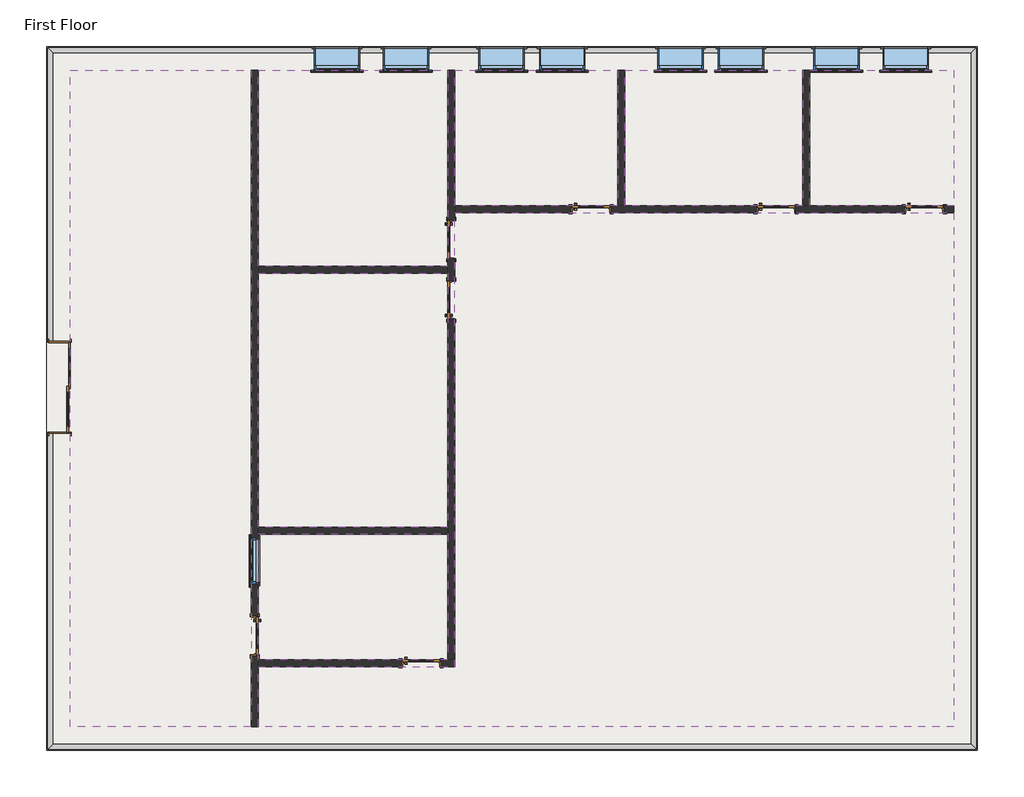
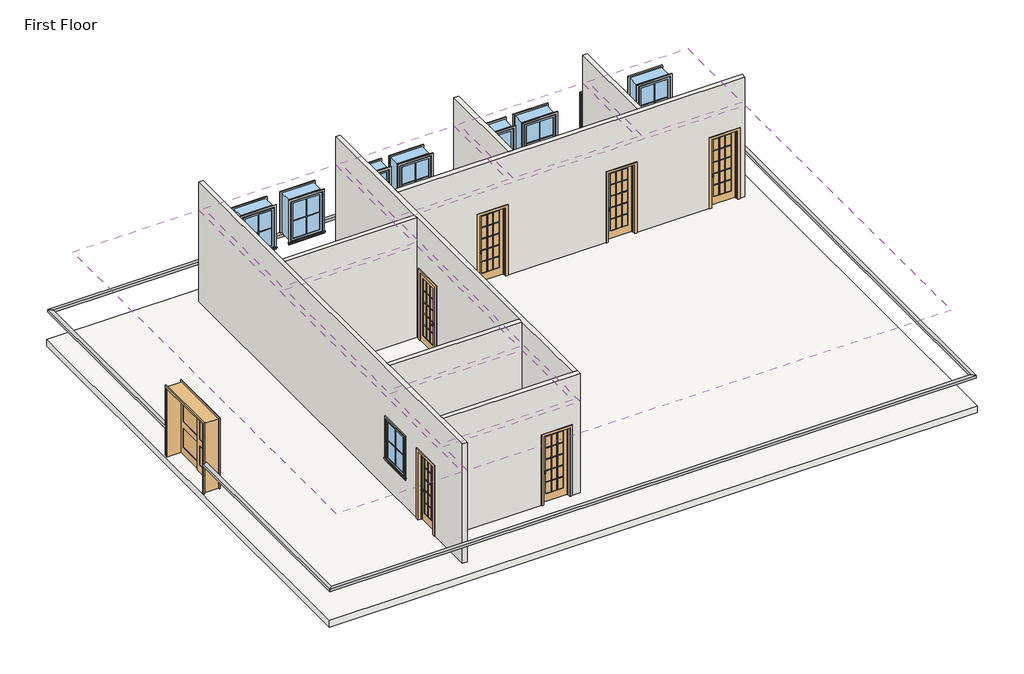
# One storey: 31 proxies, 9 windows, 8 coverings, 8 doors, 8 walls, 1 slab.
"""IFC4 building model written with IfcOpenShell, lengths in millimetres."""

from ifc_helpers import new_model, si_unit, frame, origin, place, context, project, spatial, polyline, outline, extrude, faceted_brep, transform, mapped, element, save
from components import muntin_pattern_2x2_muntin_pattern_2x2_49331bd8, muntin_pattern_2x2_muntin_pattern_2x2_a8e7a107, trim_window_exterior_flat_with_sill_cdc255b3, trim_window_exterior_flat_with_sill_0ab60cae, trim_window_interior_flat_picture_frame_ab41cb78, trim_window_interior_flat_picture_frame_2efe6088, m_door_interior_double_sliding_2_panel_wood_1800_x_2100mm_b8cd72e9, m_door_interior_single_full_glass_wood_750_x_2100mm_ded28596, m_door_interior_single_full_glass_wood_750_x_2100mm_01f99739, window_awning_single_915_x_1220_b06b9331, window_awning_single_915_x_1220_597a1cb3, window_awning_single_915_x_1220_ba5cffbd

model = new_model("IFC4")

# Units and contexts
model_context = context("Model", 3, world=origin())
ifc_project = project(units=[si_unit("LENGTHUNIT", "METRE", prefix="MILLI")], contexts=[model_context])

# Site, building, storey
site = spatial("IfcSite", under=ifc_project)
building = spatial("IfcBuilding", under=site)
storey = spatial("IfcBuildingStorey", under=building, Name="First Floor", Elevation=3600.0)

# Proxies
placement = place(None, origin())
element("IfcBuildingElementProxy", 1, Name="Reveals", at=placement, inside=storey, context=model_context, shape_type="SweptSolid", body=[
    extrude(outline(polyline([(-17378.8100037, 5434.2363466), (-17481.3100037, 5536.7363466), (1223.6899963, 5536.7363466), (1121.1899963, 5434.2363466), (-17378.8100037, 5434.2363466)])), frame((0.0, 0.0, 4449.0), z_axis=(0.0, 0.0, 1.0), x_axis=(1.0, 0.0, 0.0)), (0.0, 0.0, 1.0), 75.0),
])
element("IfcBuildingElementProxy", 2, Name="Reveals", at=placement, inside=storey, context=model_context, shape_type="SweptSolid", body=[
    extrude(outline(polyline([(-17378.8100037, -381.0811162), (-17481.3100037, -381.0811162), (-17481.3100037, 5536.7363466), (-17378.8100037, 5434.2363466), (-17378.8100037, -381.0811162)])), frame((0.0, 0.0, 4449.0), z_axis=(0.0, 0.0, 1.0), x_axis=(1.0, 0.0, 0.0)), (0.0, 0.0, 1.0), 75.0),
    extrude(outline(polyline([(-17378.8100037, -8493.7636534), (-17481.3100037, -8596.2636534), (-17481.3100037, -2231.0811162), (-17378.8100037, -2231.0811162), (-17378.8100037, -8493.7636534)])), frame((0.0, 0.0, 4449.0), z_axis=(0.0, 0.0, 1.0), x_axis=(1.0, 0.0, 0.0)), (0.0, 0.0, 1.0), 75.0),
])
element("IfcBuildingElementProxy", 3, Name="Reveals", at=placement, inside=storey, context=model_context, shape_type="SweptSolid", body=[
    extrude(outline(polyline([(1121.1899963, -8493.7636534), (1223.6899963, -8596.2636534), (-17481.3100037, -8596.2636534), (-17378.8100037, -8493.7636534), (1121.1899963, -8493.7636534)])), frame((0.0, 0.0, 4449.0), z_axis=(0.0, 0.0, 1.0), x_axis=(1.0, 0.0, 0.0)), (0.0, 0.0, 1.0), 75.0),
])
element("IfcBuildingElementProxy", 4, Name="Reveals", at=placement, inside=storey, context=model_context, shape_type="SweptSolid", body=[
    extrude(outline(polyline([(1121.1899963, 5434.2363466), (1223.6899963, 5536.7363466), (1223.6899963, -8596.2636534), (1121.1899963, -8493.7636534), (1121.1899963, 5434.2363466)])), frame((0.0, 0.0, 4449.0), z_axis=(0.0, 0.0, 1.0), x_axis=(1.0, 0.0, 0.0)), (0.0, 0.0, 1.0), 75.0),
])
muntin_pattern_2x2_muntin_pattern_2x2_shape = muntin_pattern_2x2_muntin_pattern_2x2_49331bd8(model_context)
element("IfcBuildingElementProxy", 5, Name="Muntin Pattern_2x2 : Muntin Pattern_2x2", ObjectType="Muntin Pattern_2x2 : Muntin Pattern_2x2", at=placement, inside=storey, context=model_context, shape_type="MappedRepresentation", body=[
    mapped(muntin_pattern_2x2_muntin_pattern_2x2_shape, transform((-13370.5350037, -4799.4136534, 4584.25), x_axis=(0.0, 1.0, 0.0), y_axis=(-1.0, 0.0, 0.0), z_axis=(0.0, 0.0, 1.0))),
])
element("IfcBuildingElementProxy", 6, Name="Muntin Pattern_2x2 : Muntin Pattern_2x2", ObjectType="Muntin Pattern_2x2 : Muntin Pattern_2x2", at=placement, inside=storey, context=model_context, shape_type="MappedRepresentation", body=[
    mapped(muntin_pattern_2x2_muntin_pattern_2x2_shape, transform((-1590.3100037, 5089.7613466, 4584.25), x_axis=(-1.0, 0.0, 0.0), y_axis=(0.0, -1.0, 0.0), z_axis=(0.0, 0.0, 1.0))),
])
element("IfcBuildingElementProxy", 7, Name="Muntin Pattern_2x2 : Muntin Pattern_2x2", ObjectType="Muntin Pattern_2x2 : Muntin Pattern_2x2", at=placement, inside=storey, context=model_context, shape_type="MappedRepresentation", body=[
    mapped(muntin_pattern_2x2_muntin_pattern_2x2_shape, transform((-198.934993, 5089.7613466, 4584.25), x_axis=(-1.0, 0.0, 0.0), y_axis=(0.0, -1.0, 0.0), z_axis=(0.0, 0.0, 1.0))),
])
element("IfcBuildingElementProxy", 8, Name="Muntin Pattern_2x2 : Muntin Pattern_2x2", ObjectType="Muntin Pattern_2x2 : Muntin Pattern_2x2", at=placement, inside=storey, context=model_context, shape_type="MappedRepresentation", body=[
    mapped(muntin_pattern_2x2_muntin_pattern_2x2_shape, transform((-3517.3100037, 5089.7613466, 4584.25), x_axis=(-1.0, 0.0, 0.0), y_axis=(0.0, -1.0, 0.0), z_axis=(0.0, 0.0, 1.0))),
])
element("IfcBuildingElementProxy", 9, Name="Muntin Pattern_2x2 : Muntin Pattern_2x2", ObjectType="Muntin Pattern_2x2 : Muntin Pattern_2x2", at=placement, inside=storey, context=model_context, shape_type="MappedRepresentation", body=[
    mapped(muntin_pattern_2x2_muntin_pattern_2x2_shape, transform((-4736.5100037, 5089.7613466, 4584.25), x_axis=(-1.0, 0.0, 0.0), y_axis=(0.0, -1.0, 0.0), z_axis=(0.0, 0.0, 1.0))),
])
muntin_pattern_2x2_muntin_pattern_2x2_2_shape = muntin_pattern_2x2_muntin_pattern_2x2_a8e7a107(model_context)
element("IfcBuildingElementProxy", 10, Name="Muntin Pattern_2x2 : Muntin Pattern_2x2", ObjectType="Muntin Pattern_2x2 : Muntin Pattern_2x2", at=placement, inside=storey, context=model_context, shape_type="MappedRepresentation", body=[
    mapped(muntin_pattern_2x2_muntin_pattern_2x2_2_shape, transform((-10263.2100037, 5089.7613466, 4584.25), x_axis=(1.0, 0.0, 0.0), y_axis=(0.0, 1.0, 0.0), z_axis=(0.0, 0.0, 1.0))),
])
element("IfcBuildingElementProxy", 11, Name="Muntin Pattern_2x2 : Muntin Pattern_2x2", ObjectType="Muntin Pattern_2x2 : Muntin Pattern_2x2", at=placement, inside=storey, context=model_context, shape_type="MappedRepresentation", body=[
    mapped(muntin_pattern_2x2_muntin_pattern_2x2_2_shape, transform((-11654.5850143, 5089.7613466, 4584.25), x_axis=(1.0, 0.0, 0.0), y_axis=(0.0, 1.0, 0.0), z_axis=(0.0, 0.0, 1.0))),
])
element("IfcBuildingElementProxy", 12, Name="Muntin Pattern_2x2 : Muntin Pattern_2x2", ObjectType="Muntin Pattern_2x2 : Muntin Pattern_2x2", at=placement, inside=storey, context=model_context, shape_type="MappedRepresentation", body=[
    mapped(muntin_pattern_2x2_muntin_pattern_2x2_2_shape, transform((-8336.2100037, 5089.7613466, 4584.25), x_axis=(1.0, 0.0, 0.0), y_axis=(0.0, 1.0, 0.0), z_axis=(0.0, 0.0, 1.0))),
])
element("IfcBuildingElementProxy", 13, Name="Muntin Pattern_2x2 : Muntin Pattern_2x2", ObjectType="Muntin Pattern_2x2 : Muntin Pattern_2x2", at=placement, inside=storey, context=model_context, shape_type="MappedRepresentation", body=[
    mapped(muntin_pattern_2x2_muntin_pattern_2x2_2_shape, transform((-7117.0100037, 5089.7613466, 4584.25), x_axis=(1.0, 0.0, 0.0), y_axis=(0.0, 1.0, 0.0), z_axis=(0.0, 0.0, 1.0))),
])
trim_window_exterior_flat_with_sill_shape = trim_window_exterior_flat_with_sill_cdc255b3(model_context)
element("IfcBuildingElementProxy", 14, Name="Trim-Window-Exterior-Flat : with Sill", ObjectType="Trim-Window-Exterior-Flat : with Sill", at=placement, inside=storey, context=model_context, shape_type="MappedRepresentation", body=[
    mapped(trim_window_exterior_flat_with_sill_shape, transform((-13380.0600037, -4799.4136534, 5734.4), x_axis=(0.0, -1.0, 0.0), y_axis=(0.0, 0.0, 1.0), z_axis=(-1.0, 0.0, 0.0))),
])
element("IfcBuildingElementProxy", 15, Name="Trim-Window-Exterior-Flat : with Sill", ObjectType="Trim-Window-Exterior-Flat : with Sill", at=placement, inside=storey, context=model_context, shape_type="MappedRepresentation", body=[
    mapped(trim_window_exterior_flat_with_sill_shape, transform((-1590.3100037, 5080.2363466, 5734.4), x_axis=(1.0, 0.0, 0.0), y_axis=(0.0, 0.0, 1.0), z_axis=(0.0, -1.0, 0.0))),
])
element("IfcBuildingElementProxy", 16, Name="Trim-Window-Exterior-Flat : with Sill", ObjectType="Trim-Window-Exterior-Flat : with Sill", at=placement, inside=storey, context=model_context, shape_type="MappedRepresentation", body=[
    mapped(trim_window_exterior_flat_with_sill_shape, transform((-198.934993, 5080.2363466, 5734.4), x_axis=(1.0, 0.0, 0.0), y_axis=(0.0, 0.0, 1.0), z_axis=(0.0, -1.0, 0.0))),
])
element("IfcBuildingElementProxy", 17, Name="Trim-Window-Exterior-Flat : with Sill", ObjectType="Trim-Window-Exterior-Flat : with Sill", at=placement, inside=storey, context=model_context, shape_type="MappedRepresentation", body=[
    mapped(trim_window_exterior_flat_with_sill_shape, transform((-3517.3100037, 5080.2363466, 5734.4), x_axis=(1.0, 0.0, 0.0), y_axis=(0.0, 0.0, 1.0), z_axis=(0.0, -1.0, 0.0))),
])
element("IfcBuildingElementProxy", 18, Name="Trim-Window-Exterior-Flat : with Sill", ObjectType="Trim-Window-Exterior-Flat : with Sill", at=placement, inside=storey, context=model_context, shape_type="MappedRepresentation", body=[
    mapped(trim_window_exterior_flat_with_sill_shape, transform((-4736.5100037, 5080.2363466, 5734.4), x_axis=(1.0, 0.0, 0.0), y_axis=(0.0, 0.0, 1.0), z_axis=(0.0, -1.0, 0.0))),
])
trim_window_exterior_flat_with_sill_2_shape = trim_window_exterior_flat_with_sill_0ab60cae(model_context)
element("IfcBuildingElementProxy", 19, Name="Trim-Window-Exterior-Flat : with Sill", ObjectType="Trim-Window-Exterior-Flat : with Sill", at=placement, inside=storey, context=model_context, shape_type="MappedRepresentation", body=[
    mapped(trim_window_exterior_flat_with_sill_2_shape, transform((-10263.2100037, 5080.2363466, 5734.4), x_axis=(-1.0, 0.0, 0.0), y_axis=(0.0, 0.0, -1.0), z_axis=(0.0, -1.0, 0.0))),
])
element("IfcBuildingElementProxy", 20, Name="Trim-Window-Exterior-Flat : with Sill", ObjectType="Trim-Window-Exterior-Flat : with Sill", at=placement, inside=storey, context=model_context, shape_type="MappedRepresentation", body=[
    mapped(trim_window_exterior_flat_with_sill_2_shape, transform((-11654.5850143, 5080.2363466, 5734.4), x_axis=(-1.0, 0.0, 0.0), y_axis=(0.0, 0.0, -1.0), z_axis=(0.0, -1.0, 0.0))),
])
element("IfcBuildingElementProxy", 21, Name="Trim-Window-Exterior-Flat : with Sill", ObjectType="Trim-Window-Exterior-Flat : with Sill", at=placement, inside=storey, context=model_context, shape_type="MappedRepresentation", body=[
    mapped(trim_window_exterior_flat_with_sill_2_shape, transform((-8336.2100037, 5080.2363466, 5734.4), x_axis=(-1.0, 0.0, 0.0), y_axis=(0.0, 0.0, -1.0), z_axis=(0.0, -1.0, 0.0))),
])
element("IfcBuildingElementProxy", 22, Name="Trim-Window-Exterior-Flat : with Sill", ObjectType="Trim-Window-Exterior-Flat : with Sill", at=placement, inside=storey, context=model_context, shape_type="MappedRepresentation", body=[
    mapped(trim_window_exterior_flat_with_sill_2_shape, transform((-7117.0100037, 5080.2363466, 5734.4), x_axis=(-1.0, 0.0, 0.0), y_axis=(0.0, 0.0, -1.0), z_axis=(0.0, -1.0, 0.0))),
])
trim_window_interior_flat_picture_frame_shape = trim_window_interior_flat_picture_frame_ab41cb78(model_context)
element("IfcBuildingElementProxy", 23, Name="Trim-Window-Interior-Flat : Picture Frame", ObjectType="Trim-Window-Interior-Flat : Picture Frame", at=placement, inside=storey, context=model_context, shape_type="MappedRepresentation", body=[
    mapped(trim_window_interior_flat_picture_frame_shape, transform((-13241.5600037, -4799.4136534, 5734.4), x_axis=(0.0, 1.0, 0.0), y_axis=(0.0, 0.0, 1.0), z_axis=(1.0, 0.0, 0.0))),
])
element("IfcBuildingElementProxy", 24, Name="Trim-Window-Interior-Flat : Picture Frame", ObjectType="Trim-Window-Interior-Flat : Picture Frame", at=placement, inside=storey, context=model_context, shape_type="MappedRepresentation", body=[
    mapped(trim_window_interior_flat_picture_frame_shape, transform((-1590.3100037, 5509.2363466, 5734.4), x_axis=(-1.0, 0.0, 0.0), y_axis=(0.0, 0.0, 1.0), z_axis=(0.0, 1.0, 0.0))),
])
element("IfcBuildingElementProxy", 25, Name="Trim-Window-Interior-Flat : Picture Frame", ObjectType="Trim-Window-Interior-Flat : Picture Frame", at=placement, inside=storey, context=model_context, shape_type="MappedRepresentation", body=[
    mapped(trim_window_interior_flat_picture_frame_shape, transform((-198.934993, 5509.2363466, 5734.4), x_axis=(-1.0, 0.0, 0.0), y_axis=(0.0, 0.0, 1.0), z_axis=(0.0, 1.0, 0.0))),
])
element("IfcBuildingElementProxy", 26, Name="Trim-Window-Interior-Flat : Picture Frame", ObjectType="Trim-Window-Interior-Flat : Picture Frame", at=placement, inside=storey, context=model_context, shape_type="MappedRepresentation", body=[
    mapped(trim_window_interior_flat_picture_frame_shape, transform((-3517.3100037, 5509.2363466, 5734.4), x_axis=(-1.0, 0.0, 0.0), y_axis=(0.0, 0.0, 1.0), z_axis=(0.0, 1.0, 0.0))),
])
element("IfcBuildingElementProxy", 27, Name="Trim-Window-Interior-Flat : Picture Frame", ObjectType="Trim-Window-Interior-Flat : Picture Frame", at=placement, inside=storey, context=model_context, shape_type="MappedRepresentation", body=[
    mapped(trim_window_interior_flat_picture_frame_shape, transform((-4736.5100037, 5509.2363466, 5734.4), x_axis=(-1.0, 0.0, 0.0), y_axis=(0.0, 0.0, 1.0), z_axis=(0.0, 1.0, 0.0))),
])
trim_window_interior_flat_picture_frame_2_shape = trim_window_interior_flat_picture_frame_2efe6088(model_context)
element("IfcBuildingElementProxy", 28, Name="Trim-Window-Interior-Flat : Picture Frame", ObjectType="Trim-Window-Interior-Flat : Picture Frame", at=placement, inside=storey, context=model_context, shape_type="MappedRepresentation", body=[
    mapped(trim_window_interior_flat_picture_frame_2_shape, transform((-10263.2100037, 5509.2363466, 5734.4), x_axis=(1.0, 0.0, 0.0), y_axis=(0.0, 0.0, -1.0), z_axis=(0.0, 1.0, 0.0))),
])
element("IfcBuildingElementProxy", 29, Name="Trim-Window-Interior-Flat : Picture Frame", ObjectType="Trim-Window-Interior-Flat : Picture Frame", at=placement, inside=storey, context=model_context, shape_type="MappedRepresentation", body=[
    mapped(trim_window_interior_flat_picture_frame_2_shape, transform((-11654.5850143, 5509.2363466, 5734.4), x_axis=(1.0, 0.0, 0.0), y_axis=(0.0, 0.0, -1.0), z_axis=(0.0, 1.0, 0.0))),
])
element("IfcBuildingElementProxy", 30, Name="Trim-Window-Interior-Flat : Picture Frame", ObjectType="Trim-Window-Interior-Flat : Picture Frame", at=placement, inside=storey, context=model_context, shape_type="MappedRepresentation", body=[
    mapped(trim_window_interior_flat_picture_frame_2_shape, transform((-8336.2100037, 5509.2363466, 5734.4), x_axis=(1.0, 0.0, 0.0), y_axis=(0.0, 0.0, -1.0), z_axis=(0.0, 1.0, 0.0))),
])
element("IfcBuildingElementProxy", 31, Name="Trim-Window-Interior-Flat : Picture Frame", ObjectType="Trim-Window-Interior-Flat : Picture Frame", at=placement, inside=storey, context=model_context, shape_type="MappedRepresentation", body=[
    mapped(trim_window_interior_flat_picture_frame_2_shape, transform((-7117.0100037, 5509.2363466, 5734.4), x_axis=(1.0, 0.0, 0.0), y_axis=(0.0, 0.0, -1.0), z_axis=(0.0, 1.0, 0.0))),
])

# Coverings
element("IfcCovering", 32, ObjectType="Plain", at=placement, inside=storey, context=model_context, shape_type="SweptSolid", body=[
    extrude(outline(polyline([(-17024.8100037, 5080.2363466), (-13380.0600037, 5080.2363466), (-13380.0600037, -8139.7636534), (-17024.8100037, -8139.7636534), (-17024.8100037, 5080.2363466)])), frame((0.0, 0.0, 6400.0), z_axis=(0.0, 0.0, 1.0), x_axis=(1.0, 0.0, 0.0)), (0.0, 0.0, 1.0), 57.0),
])
element("IfcCovering", 33, ObjectType="Plain", at=placement, inside=storey, context=model_context, shape_type="SweptSolid", body=[
    extrude(outline(polyline([(-13241.5600037, 1130.2863466), (-13241.5600037, 5080.2363466), (-9418.0600037, 5080.2363466), (-9418.0600037, 1130.2863466), (-13241.5600037, 1130.2863466)])), frame((0.0, 0.0, 6400.0), z_axis=(0.0, 0.0, 1.0), x_axis=(1.0, 0.0, 0.0)), (0.0, 0.0, 1.0), 57.0),
])
element("IfcCovering", 34, ObjectType="Plain", at=placement, inside=storey, context=model_context, shape_type="SweptSolid", body=[
    extrude(outline(polyline([(-9418.0600037, -4120.5636534), (-13241.5600037, -4120.5636534), (-13241.5600037, 991.7863466), (-9418.0600037, 991.7863466), (-9418.0600037, -4120.5636534)])), frame((0.0, 0.0, 6400.0), z_axis=(0.0, 0.0, 1.0), x_axis=(1.0, 0.0, 0.0)), (0.0, 0.0, 1.0), 57.0),
])
element("IfcCovering", 35, ObjectType="Plain", at=placement, inside=storey, context=model_context, shape_type="SweptSolid", body=[
    extrude(outline(polyline([(-9418.0600037, -6794.5136534), (-13241.5600037, -6794.5136534), (-13241.5600037, -4259.0636534), (-9418.0600037, -4259.0636534), (-9418.0600037, -6794.5136534)])), frame((0.0, 0.0, 6400.0), z_axis=(0.0, 0.0, 1.0), x_axis=(1.0, 0.0, 0.0)), (0.0, 0.0, 1.0), 57.0),
])
element("IfcCovering", 36, ObjectType="Plain", at=placement, inside=storey, context=model_context, shape_type="SweptSolid", body=[
    extrude(outline(polyline([(767.1899963, -8139.7636534), (-13241.5600037, -8139.7636534), (-13241.5600037, -6933.0136534), (-9279.5600037, -6933.0136534), (-9279.5600037, 2210.9863466), (767.1899963, 2210.9863466), (767.1899963, -8139.7636534)])), frame((0.0, 0.0, 6400.0), z_axis=(0.0, 0.0, 1.0), x_axis=(1.0, 0.0, 0.0)), (0.0, 0.0, 1.0), 57.0),
])
element("IfcCovering", 37, ObjectType="Plain", at=placement, inside=storey, context=model_context, shape_type="SweptSolid", body=[
    extrude(outline(polyline([(-9279.5600037, 5080.2363466), (-5996.0100037, 5080.2363466), (-5996.0100037, 2349.4863466), (-9279.5600037, 2349.4863466), (-9279.5600037, 5080.2363466)])), frame((0.0, 0.0, 6400.0), z_axis=(0.0, 0.0, 1.0), x_axis=(1.0, 0.0, 0.0)), (0.0, 0.0, 1.0), 57.0),
])
element("IfcCovering", 38, ObjectType="Plain", at=placement, inside=storey, context=model_context, shape_type="SweptSolid", body=[
    extrude(outline(polyline([(-5857.5100037, 2349.4863466), (-5857.5100037, 5080.2363466), (-2269.1600037, 5080.2363466), (-2269.1600037, 2349.4863466), (-5857.5100037, 2349.4863466)])), frame((0.0, 0.0, 6400.0), z_axis=(0.0, 0.0, 1.0), x_axis=(1.0, 0.0, 0.0)), (0.0, 0.0, 1.0), 57.0),
])
element("IfcCovering", 39, ObjectType="Plain", at=placement, inside=storey, context=model_context, shape_type="SweptSolid", body=[
    extrude(outline(polyline([(-2130.6600037, 2349.4863466), (-2130.6600037, 5080.2363466), (767.1899963, 5080.2363466), (767.1899963, 2349.4863466), (-2130.6600037, 2349.4863466)])), frame((0.0, 0.0, 6400.0), z_axis=(0.0, 0.0, 1.0), x_axis=(1.0, 0.0, 0.0)), (0.0, 0.0, 1.0), 57.0),
])

# Doors
m_door_interior_double_sliding_2_panel_wood_1800_x_2100mm_shape = m_door_interior_double_sliding_2_panel_wood_1800_x_2100mm_b8cd72e9(model_context)
element("IfcDoor", 40, ObjectType="M_Door-Interior-Double-Sliding-2_Panel-Wood : 1800 x 2100mm", at=placement, inside=storey, context=model_context, shape_type="MappedRepresentation", body=[
    mapped(m_door_interior_double_sliding_2_panel_wood_1800_x_2100mm_shape, transform((-17236.1350037, -1306.0811162, 3600.0), x_axis=(0.0, -1.0, 0.0), y_axis=(1.0, 0.0, 0.0), z_axis=(0.0, 0.0, 1.0))),
])
m_door_interior_single_full_glass_wood_750_x_2100mm_shape = m_door_interior_single_full_glass_wood_750_x_2100mm_ded28596(model_context)
element("IfcDoor", 41, ObjectType="M_Door-Interior-Single-Full Glass-Wood : 750 x 2100mm", at=placement, inside=storey, context=model_context, shape_type="MappedRepresentation", body=[
    mapped(m_door_interior_single_full_glass_wood_750_x_2100mm_shape, transform((-13307.6350037, -6311.9136534, 3600.0), x_axis=(0.0, -1.0, 0.0), y_axis=(1.0, 0.0, 0.0), z_axis=(0.0, 0.0, 1.0))),
])
element("IfcDoor", 42, ObjectType="M_Door-Interior-Single-Full Glass-Wood : 750 x 2100mm", at=placement, inside=storey, context=model_context, shape_type="MappedRepresentation", body=[
    mapped(m_door_interior_single_full_glass_wood_750_x_2100mm_shape, transform((-9958.4100037, -6860.5886534, 3600.0), x_axis=(1.0, 0.0, 0.0), y_axis=(0.0, 1.0, 0.0), z_axis=(0.0, 0.0, 1.0))),
])
element("IfcDoor", 43, ObjectType="M_Door-Interior-Single-Full Glass-Wood : 750 x 2100mm", at=placement, inside=storey, context=model_context, shape_type="MappedRepresentation", body=[
    mapped(m_door_interior_single_full_glass_wood_750_x_2100mm_shape, transform((-9351.9850037, 451.4363466, 3600.0), x_axis=(0.0, 1.0, 0.0), y_axis=(-1.0, 0.0, 0.0), z_axis=(0.0, 0.0, 1.0))),
])
element("IfcDoor", 44, ObjectType="M_Door-Interior-Single-Full Glass-Wood : 750 x 2100mm", at=placement, inside=storey, context=model_context, shape_type="MappedRepresentation", body=[
    mapped(m_door_interior_single_full_glass_wood_750_x_2100mm_shape, transform((-6536.3600037, 2283.4113466, 3600.0), x_axis=(1.0, 0.0, 0.0), y_axis=(0.0, 1.0, 0.0), z_axis=(0.0, 0.0, 1.0))),
])
element("IfcDoor", 45, ObjectType="M_Door-Interior-Single-Full Glass-Wood : 750 x 2100mm", at=placement, inside=storey, context=model_context, shape_type="MappedRepresentation", body=[
    mapped(m_door_interior_single_full_glass_wood_750_x_2100mm_shape, transform((-2809.5100037, 2283.4113466, 3600.0), x_axis=(1.0, 0.0, 0.0), y_axis=(0.0, 1.0, 0.0), z_axis=(0.0, 0.0, 1.0))),
])
element("IfcDoor", 46, ObjectType="M_Door-Interior-Single-Full Glass-Wood : 750 x 2100mm", at=placement, inside=storey, context=model_context, shape_type="MappedRepresentation", body=[
    mapped(m_door_interior_single_full_glass_wood_750_x_2100mm_shape, transform((175.5899963, 2283.4113466, 3600.0), x_axis=(1.0, 0.0, 0.0), y_axis=(0.0, 1.0, 0.0), z_axis=(0.0, 0.0, 1.0))),
])
m_door_interior_single_full_glass_wood_750_x_2100mm_2_shape = m_door_interior_single_full_glass_wood_750_x_2100mm_01f99739(model_context)
element("IfcDoor", 47, ObjectType="M_Door-Interior-Single-Full Glass-Wood : 750 x 2100mm", at=placement, inside=storey, context=model_context, shape_type="MappedRepresentation", body=[
    mapped(m_door_interior_single_full_glass_wood_750_x_2100mm_2_shape, transform((-9351.9850037, 1670.6363466, 3600.0), x_axis=(0.0, -1.0, 0.0), y_axis=(1.0, 0.0, 0.0), z_axis=(0.0, 0.0, 1.0))),
])

# Slab
element("IfcSlab", 48, ObjectType="160mm Concrete With 50mm Metal Deck", at=placement, inside=storey, context=model_context, shape_type="SweptSolid", body=[
    extrude(outline(polyline([(1245.1899963, 5558.2363466), (1245.1899963, -8617.7636534), (-17502.8100037, -8617.7636534), (-17502.8100037, 5558.2363466), (1245.1899963, 5558.2363466)])), frame((0.0, 0.0, 3390.0), z_axis=(0.0, 0.0, 1.0), x_axis=(1.0, 0.0, 0.0)), (0.0, 0.0, 1.0), 210.0),
])

# Walls
element("IfcWall", 49, ObjectType="Interior - 138mm Partition (1-hr)", at=placement, inside=storey, context=model_context, shape_type="Brep", body=[
    faceted_brep([(-13380.0600037, -8139.7636534, 7258.0), (-13380.0600037, 5080.2363466, 7258.0), (-13380.0600037, 5080.2363466, 3600.0), (-13380.0600037, -5911.9136534, 3600.0), (-13380.0600037, -5911.9136534, 5725.0), (-13380.0600037, -6711.9136534, 5725.0), (-13380.0600037, -6711.9136534, 3600.0), (-13380.0600037, -8139.7636534, 3600.0), (-13380.0600037, -4341.9136534, 5734.4), (-13380.0600037, -5256.9136534, 5734.4), (-13380.0600037, -5256.9136534, 4514.4), (-13380.0600037, -4341.9136534, 4514.4), (-13241.5600037, 5080.2363466, 7258.0), (-13241.5600037, 1130.2863466, 7258.0), (-13241.5600037, 991.7863466, 7258.0), (-13241.5600037, -4120.5636534, 7258.0), (-13241.5600037, -4259.0636534, 7258.0), (-13241.5600037, -6794.5136534, 7258.0), (-13241.5600037, -6933.0136534, 7258.0), (-13241.5600037, -8139.7636534, 7258.0), (-13241.5600037, -8139.7636534, 3600.0), (-13241.5600037, -6933.0136534, 3600.0), (-13241.5600037, -6794.5136534, 3600.0), (-13241.5600037, -6711.9136534, 3600.0), (-13241.5600037, -6711.9136534, 5725.0), (-13241.5600037, -5911.9136534, 5725.0), (-13241.5600037, -5911.9136534, 3600.0), (-13241.5600037, -4259.0636534, 3600.0), (-13241.5600037, -4120.5636534, 3600.0), (-13241.5600037, 991.7863466, 3600.0), (-13241.5600037, 1130.2863466, 3600.0), (-13241.5600037, 5080.2363466, 3600.0), (-13241.5600037, -4341.9136534, 5734.4), (-13241.5600037, -4341.9136534, 4514.4), (-13241.5600037, -5256.9136534, 4514.4), (-13241.5600037, -5256.9136534, 5734.4)], [[[0, 1, 2, 3, 4, 5, 6, 7], [8, 9, 10, 11]], [[12, 13, 14, 15, 16, 17, 18, 19, 20, 21, 22, 23, 24, 25, 26, 27, 28, 29, 30, 31], [32, 33, 34, 35]], [[2, 31, 30, 29, 28, 27, 26, 3]], [[20, 7, 6, 23, 22, 21]], [[1, 0, 19, 18, 17, 16, 15, 14, 13, 12]], [[5, 24, 23, 6]], [[24, 5, 4, 25]], [[25, 4, 3, 26]], [[33, 32, 8, 11]], [[34, 33, 11, 10]], [[35, 34, 10, 9]], [[32, 35, 9, 8]], [[2, 1, 12, 31]], [[0, 7, 20, 19]]]),
])
element("IfcWall", 50, ObjectType="Interior - 138mm Partition (1-hr)", at=placement, inside=storey, context=model_context, shape_type="Brep", body=[
    faceted_brep([(-9279.5600037, -6933.0136534, 7258.0), (-13241.5600037, -6933.0136534, 7258.0), (-13241.5600037, -6933.0136534, 3600.0), (-10358.4100037, -6933.0136534, 3600.0), (-10358.4100037, -6933.0136534, 5725.0), (-9558.4100037, -6933.0136534, 5725.0), (-9558.4100037, -6933.0136534, 3600.0), (-9279.5600037, -6933.0136534, 3600.0), (-13241.5600037, -6794.5136534, 7258.0), (-9418.0600037, -6794.5136534, 7258.0), (-9279.5600037, -6794.5136534, 7258.0), (-9279.5600037, -6794.5136534, 3600.0), (-9418.0600037, -6794.5136534, 3600.0), (-9558.4100037, -6794.5136534, 3600.0), (-9558.4100037, -6794.5136534, 5725.0), (-10358.4100037, -6794.5136534, 5725.0), (-10358.4100037, -6794.5136534, 3600.0), (-13241.5600037, -6794.5136534, 3600.0)], [[[0, 1, 2, 3, 4, 5, 6, 7]], [[8, 9, 10, 11, 12, 13, 14, 15, 16, 17]], [[2, 17, 16, 3]], [[11, 7, 6, 13, 12]], [[1, 0, 10, 9, 8]], [[2, 1, 8, 17]], [[0, 7, 11, 10]], [[5, 14, 13, 6]], [[14, 5, 4, 15]], [[15, 4, 3, 16]]]),
])
element("IfcWall", 51, ObjectType="Interior - 138mm Partition (1-hr)", at=placement, inside=storey, context=model_context, shape_type="Brep", body=[
    faceted_brep([(-9279.5600037, 5080.2363466, 7258.0), (-9279.5600037, 2349.4863466, 7258.0), (-9279.5600037, 2210.9863466, 7258.0), (-9279.5600037, -6794.5136534, 7258.0), (-9279.5600037, -6794.5136534, 3600.0), (-9279.5600037, 51.4363466, 3600.0), (-9279.5600037, 51.4363466, 5725.0), (-9279.5600037, 851.4363466, 5725.0), (-9279.5600037, 851.4363466, 3600.0), (-9279.5600037, 1270.6363466, 3600.0), (-9279.5600037, 1270.6363466, 5725.0), (-9279.5600037, 2070.6363466, 5725.0), (-9279.5600037, 2070.6363466, 3600.0), (-9279.5600037, 2210.9863466, 3600.0), (-9279.5600037, 2349.4863466, 3600.0), (-9279.5600037, 5080.2363466, 3600.0), (-9418.0600037, -6794.5136534, 7258.0), (-9418.0600037, -4259.0636534, 7258.0), (-9418.0600037, -4120.5636534, 7258.0), (-9418.0600037, 991.7863466, 7258.0), (-9418.0600037, 1130.2863466, 7258.0), (-9418.0600037, 5080.2363466, 7258.0), (-9418.0600037, 5080.2363466, 3600.0), (-9418.0600037, 2070.6363466, 3600.0), (-9418.0600037, 2070.6363466, 5725.0), (-9418.0600037, 1270.6363466, 5725.0), (-9418.0600037, 1270.6363466, 3600.0), (-9418.0600037, 1130.2863466, 3600.0), (-9418.0600037, 991.7863466, 3600.0), (-9418.0600037, 851.4363466, 3600.0), (-9418.0600037, 851.4363466, 5725.0), (-9418.0600037, 51.4363466, 5725.0), (-9418.0600037, 51.4363466, 3600.0), (-9418.0600037, -4120.5636534, 3600.0), (-9418.0600037, -4259.0636534, 3600.0), (-9418.0600037, -6794.5136534, 3600.0)], [[[0, 1, 2, 3, 4, 5, 6, 7, 8, 9, 10, 11, 12, 13, 14, 15]], [[16, 17, 18, 19, 20, 21, 22, 23, 24, 25, 26, 27, 28, 29, 30, 31, 32, 33, 34, 35]], [[4, 35, 34, 33, 32, 5]], [[8, 29, 28, 27, 26, 9]], [[22, 15, 14, 13, 12, 23]], [[3, 2, 1, 0, 21, 20, 19, 18, 17, 16]], [[4, 3, 16, 35]], [[7, 30, 29, 8]], [[30, 7, 6, 31]], [[31, 6, 5, 32]], [[25, 10, 9, 26]], [[10, 25, 24, 11]], [[11, 24, 23, 12]], [[0, 15, 22, 21]]]),
])
element("IfcWall", 52, ObjectType="Interior - 138mm Partition (1-hr)", at=placement, inside=storey, context=model_context, shape_type="Brep", body=[
    faceted_brep([(767.1899963, 2210.9863466, 7258.0), (-9279.5600037, 2210.9863466, 7258.0), (-9279.5600037, 2210.9863466, 3600.0), (-6936.3600037, 2210.9863466, 3600.0), (-6936.3600037, 2210.9863466, 5725.0), (-6136.3600037, 2210.9863466, 5725.0), (-6136.3600037, 2210.9863466, 3600.0), (-3209.5100037, 2210.9863466, 3600.0), (-3209.5100037, 2210.9863466, 5725.0), (-2409.5100037, 2210.9863466, 5725.0), (-2409.5100037, 2210.9863466, 3600.0), (-224.4100037, 2210.9863466, 3600.0), (-224.4100037, 2210.9863466, 5725.0), (575.5899963, 2210.9863466, 5725.0), (575.5899963, 2210.9863466, 3600.0), (767.1899963, 2210.9863466, 3600.0), (-9279.5600037, 2349.4863466, 7258.0), (-5996.0100037, 2349.4863466, 7258.0), (-5857.5100037, 2349.4863466, 7258.0), (-2269.1600037, 2349.4863466, 7258.0), (-2130.6600037, 2349.4863466, 7258.0), (767.1899963, 2349.4863466, 7258.0), (767.1899963, 2349.4863466, 3600.0), (575.5899963, 2349.4863466, 3600.0), (575.5899963, 2349.4863466, 5725.0), (-224.4100037, 2349.4863466, 5725.0), (-224.4100037, 2349.4863466, 3600.0), (-2130.6600037, 2349.4863466, 3600.0), (-2269.1600037, 2349.4863466, 3600.0), (-2409.5100037, 2349.4863466, 3600.0), (-2409.5100037, 2349.4863466, 5725.0), (-3209.5100037, 2349.4863466, 5725.0), (-3209.5100037, 2349.4863466, 3600.0), (-5857.5100037, 2349.4863466, 3600.0), (-5996.0100037, 2349.4863466, 3600.0), (-6136.3600037, 2349.4863466, 3600.0), (-6136.3600037, 2349.4863466, 5725.0), (-6936.3600037, 2349.4863466, 5725.0), (-6936.3600037, 2349.4863466, 3600.0), (-9279.5600037, 2349.4863466, 3600.0)], [[[0, 1, 2, 3, 4, 5, 6, 7, 8, 9, 10, 11, 12, 13, 14, 15]], [[16, 17, 18, 19, 20, 21, 22, 23, 24, 25, 26, 27, 28, 29, 30, 31, 32, 33, 34, 35, 36, 37, 38, 39]], [[2, 39, 38, 3]], [[6, 35, 34, 33, 32, 7]], [[10, 29, 28, 27, 26, 11]], [[22, 15, 14, 23]], [[1, 0, 21, 20, 19, 18, 17, 16]], [[2, 1, 16, 39]], [[5, 36, 35, 6]], [[36, 5, 4, 37]], [[37, 4, 3, 38]], [[9, 30, 29, 10]], [[30, 9, 8, 31]], [[31, 8, 7, 32]], [[13, 24, 23, 14]], [[24, 13, 12, 25]], [[25, 12, 11, 26]], [[0, 15, 22, 21]]]),
])
element("IfcWall", 53, ObjectType="Interior - 138mm Partition (1-hr)", at=placement, inside=storey, context=model_context, shape_type="SweptSolid", body=[
    extrude(outline(polyline([(-9418.0600037, 991.7863466), (-13241.5600037, 991.7863466), (-13241.5600037, 1130.2863466), (-9418.0600037, 1130.2863466), (-9418.0600037, 991.7863466)])), frame((0.0, 0.0, 3600.0), z_axis=(0.0, 0.0, 1.0), x_axis=(1.0, 0.0, 0.0)), (0.0, 0.0, 1.0), 3658.0),
])
element("IfcWall", 54, ObjectType="Interior - 138mm Partition (1-hr)", at=placement, inside=storey, context=model_context, shape_type="SweptSolid", body=[
    extrude(outline(polyline([(-9418.0600037, -4259.0636534), (-13241.5600037, -4259.0636534), (-13241.5600037, -4120.5636534), (-9418.0600037, -4120.5636534), (-9418.0600037, -4259.0636534)])), frame((0.0, 0.0, 3600.0), z_axis=(0.0, 0.0, 1.0), x_axis=(1.0, 0.0, 0.0)), (0.0, 0.0, 1.0), 3658.0),
])
element("IfcWall", 55, ObjectType="Interior - 138mm Partition (1-hr)", at=placement, inside=storey, context=model_context, shape_type="SweptSolid", body=[
    extrude(outline(polyline([(-5996.0100037, 2349.4863466), (-5996.0100037, 5080.2363466), (-5857.5100037, 5080.2363466), (-5857.5100037, 2349.4863466), (-5996.0100037, 2349.4863466)])), frame((0.0, 0.0, 3600.0), z_axis=(0.0, 0.0, 1.0), x_axis=(1.0, 0.0, 0.0)), (0.0, 0.0, 1.0), 3658.0),
])
element("IfcWall", 56, ObjectType="Interior - 138mm Partition (1-hr)", at=placement, inside=storey, context=model_context, shape_type="SweptSolid", body=[
    extrude(outline(polyline([(-2269.1600037, 2349.4863466), (-2269.1600037, 5080.2363466), (-2130.6600037, 5080.2363466), (-2130.6600037, 2349.4863466), (-2269.1600037, 2349.4863466)])), frame((0.0, 0.0, 3600.0), z_axis=(0.0, 0.0, 1.0), x_axis=(1.0, 0.0, 0.0)), (0.0, 0.0, 1.0), 3658.0),
])

# Windows
window_awning_single_915_x_1220_shape = window_awning_single_915_x_1220_b06b9331(model_context)
element("IfcWindow", 57, ObjectType="Window-Awning-Single : 915 X 1220", at=placement, inside=storey, context=model_context, shape_type="MappedRepresentation", body=[
    mapped(window_awning_single_915_x_1220_shape, transform((-13310.8100037, -4799.4136534, 3600.0), x_axis=(0.0, 1.0, 0.0), y_axis=(-1.0, 0.0, 0.0), z_axis=(0.0, 0.0, 1.0))),
])
window_awning_single_915_x_1220_2_shape = window_awning_single_915_x_1220_597a1cb3(model_context)
element("IfcWindow", 58, ObjectType="Window-Awning-Single : 915 X 1220", at=placement, inside=storey, context=model_context, shape_type="MappedRepresentation", body=[
    mapped(window_awning_single_915_x_1220_2_shape, transform((-10263.2100037, 5294.7363466, 3600.0), x_axis=(1.0, 0.0, 0.0), y_axis=(0.0, 1.0, 0.0), z_axis=(0.0, 0.0, 1.0))),
])
element("IfcWindow", 59, ObjectType="Window-Awning-Single : 915 X 1220", at=placement, inside=storey, context=model_context, shape_type="MappedRepresentation", body=[
    mapped(window_awning_single_915_x_1220_2_shape, transform((-11654.5850143, 5294.7363466, 3600.0), x_axis=(1.0, 0.0, 0.0), y_axis=(0.0, 1.0, 0.0), z_axis=(0.0, 0.0, 1.0))),
])
element("IfcWindow", 60, ObjectType="Window-Awning-Single : 915 X 1220", at=placement, inside=storey, context=model_context, shape_type="MappedRepresentation", body=[
    mapped(window_awning_single_915_x_1220_2_shape, transform((-8336.2100037, 5294.7363466, 3600.0), x_axis=(1.0, 0.0, 0.0), y_axis=(0.0, 1.0, 0.0), z_axis=(0.0, 0.0, 1.0))),
])
element("IfcWindow", 61, ObjectType="Window-Awning-Single : 915 X 1220", at=placement, inside=storey, context=model_context, shape_type="MappedRepresentation", body=[
    mapped(window_awning_single_915_x_1220_2_shape, transform((-7117.0100037, 5294.7363466, 3600.0), x_axis=(1.0, 0.0, 0.0), y_axis=(0.0, 1.0, 0.0), z_axis=(0.0, 0.0, 1.0))),
])
window_awning_single_915_x_1220_3_shape = window_awning_single_915_x_1220_ba5cffbd(model_context)
element("IfcWindow", 62, ObjectType="Window-Awning-Single : 915 X 1220", at=placement, inside=storey, context=model_context, shape_type="MappedRepresentation", body=[
    mapped(window_awning_single_915_x_1220_3_shape, transform((-1590.3100037, 5294.7363466, 3600.0), x_axis=(-1.0, 0.0, 0.0), y_axis=(0.0, -1.0, 0.0), z_axis=(0.0, 0.0, 1.0))),
])
element("IfcWindow", 63, ObjectType="Window-Awning-Single : 915 X 1220", at=placement, inside=storey, context=model_context, shape_type="MappedRepresentation", body=[
    mapped(window_awning_single_915_x_1220_3_shape, transform((-198.934993, 5294.7363466, 3600.0), x_axis=(-1.0, 0.0, 0.0), y_axis=(0.0, -1.0, 0.0), z_axis=(0.0, 0.0, 1.0))),
])
element("IfcWindow", 64, ObjectType="Window-Awning-Single : 915 X 1220", at=placement, inside=storey, context=model_context, shape_type="MappedRepresentation", body=[
    mapped(window_awning_single_915_x_1220_3_shape, transform((-3517.3100037, 5294.7363466, 3600.0), x_axis=(-1.0, 0.0, 0.0), y_axis=(0.0, -1.0, 0.0), z_axis=(0.0, 0.0, 1.0))),
])
element("IfcWindow", 65, ObjectType="Window-Awning-Single : 915 X 1220", at=placement, inside=storey, context=model_context, shape_type="MappedRepresentation", body=[
    mapped(window_awning_single_915_x_1220_3_shape, transform((-4736.5100037, 5294.7363466, 3600.0), x_axis=(-1.0, 0.0, 0.0), y_axis=(0.0, -1.0, 0.0), z_axis=(0.0, 0.0, 1.0))),
])

save(model, "model.ifc")
